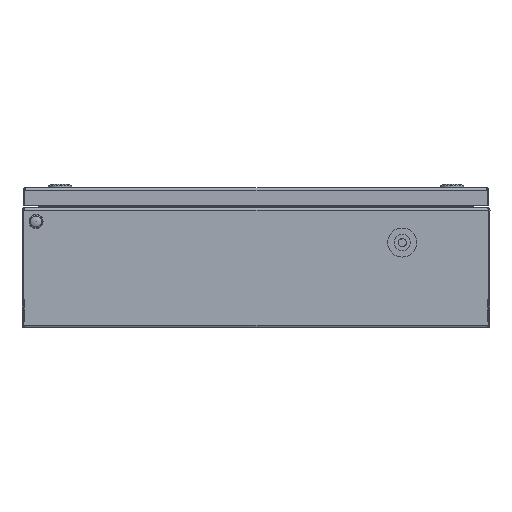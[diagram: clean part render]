
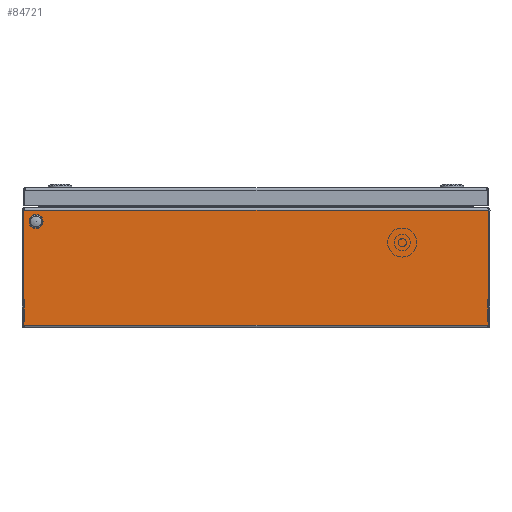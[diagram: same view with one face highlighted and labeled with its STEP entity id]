
A CAD part, front view. The second image highlights one B-rep face of the part: STEP entity #84721.
In plain terms, the highlighted planar face has unit normal (0, -1, 0).
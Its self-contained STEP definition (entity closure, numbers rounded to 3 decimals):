
#2065 = LINE ( 'NONE', #3140, #48731 ) ;
#2293 = PLANE ( 'NONE',  #45249 ) ;
#3140 = CARTESIAN_POINT ( 'NONE',  ( 198.623, -200., 100.6 ) ) ;
#4784 = EDGE_CURVE ( 'NONE', #17352, #34187, #63162, .T. ) ;
#5994 = CARTESIAN_POINT ( 'NONE',  ( -188., -200., 91. ) ) ;
#8314 = EDGE_CURVE ( 'NONE', #103350, #17352, #32807, .T. ) ;
#8383 = EDGE_LOOP ( 'NONE', ( #59059, #26809 ) ) ;
#11914 = VERTEX_POINT ( 'NONE', #97627 ) ;
#13679 = DIRECTION ( 'NONE',  ( 0., 0., -1. ) ) ;
#14251 = CARTESIAN_POINT ( 'NONE',  ( 2200., -200., 100.6 ) ) ;
#15823 = EDGE_CURVE ( 'NONE', #11914, #21300, #36227, .T. ) ;
#16900 = CARTESIAN_POINT ( 'NONE',  ( -198.623, -200., 2.4 ) ) ;
#17352 = VERTEX_POINT ( 'NONE', #16900 ) ;
#18829 = CARTESIAN_POINT ( 'NONE',  ( -188., -200., 95.65 ) ) ;
#21300 = VERTEX_POINT ( 'NONE', #18829 ) ;
#23004 = EDGE_CURVE ( 'NONE', #21300, #11914, #105032, .T. ) ;
#24311 = CARTESIAN_POINT ( 'NONE',  ( -198.623, -200., 100.6 ) ) ;
#24946 = AXIS2_PLACEMENT_3D ( 'NONE', #46973, #51556, #70907 ) ;
#26809 = ORIENTED_EDGE ( 'NONE', *, *, #23004, .F. ) ;
#32807 = LINE ( 'NONE', #39938, #42166 ) ;
#34187 = VERTEX_POINT ( 'NONE', #69242 ) ;
#34788 = EDGE_CURVE ( 'NONE', #85627, #34187, #73113, .T. ) ;
#36227 = CIRCLE ( 'NONE', #105888, 4.65 ) ;
#38220 = DIRECTION ( 'NONE',  ( -1., 0., 0. ) ) ;
#39938 = CARTESIAN_POINT ( 'NONE',  ( 2200., -200., 2.4 ) ) ;
#41636 = ORIENTED_EDGE ( 'NONE', *, *, #74362, .F. ) ;
#42166 = VECTOR ( 'NONE', #91700, 1000. ) ;
#42659 = FACE_BOUND ( 'NONE', #8383, .T. ) ;
#45249 = AXIS2_PLACEMENT_3D ( 'NONE', #94890, #96493, #62286 ) ;
#46973 = CARTESIAN_POINT ( 'NONE',  ( -188., -200., 91. ) ) ;
#48731 = VECTOR ( 'NONE', #77240, 1000. ) ;
#49742 = VECTOR ( 'NONE', #107716, 1000. ) ;
#51556 = DIRECTION ( 'NONE',  ( 0., -1., 0. ) ) ;
#55272 = ORIENTED_EDGE ( 'NONE', *, *, #8314, .F. ) ;
#56535 = VECTOR ( 'NONE', #38220, 1000. ) ;
#59059 = ORIENTED_EDGE ( 'NONE', *, *, #15823, .F. ) ;
#62286 = DIRECTION ( 'NONE',  ( 0., 0., -1. ) ) ;
#63162 = LINE ( 'NONE', #24311, #49742 ) ;
#67707 = FACE_OUTER_BOUND ( 'NONE', #107077, .T. ) ;
#69242 = CARTESIAN_POINT ( 'NONE',  ( -198.623, -200., 100.6 ) ) ;
#70907 = DIRECTION ( 'NONE',  ( 0., 0., -1. ) ) ;
#73052 = DIRECTION ( 'NONE',  ( 0., -1., 0. ) ) ;
#73113 = LINE ( 'NONE', #14251, #56535 ) ;
#74362 = EDGE_CURVE ( 'NONE', #85627, #103350, #2065, .T. ) ;
#77240 = DIRECTION ( 'NONE',  ( 0., 0., -1. ) ) ;
#84721 = ADVANCED_FACE ( 'NONE', ( #67707, #42659 ), #2293, .F. ) ;
#85627 = VERTEX_POINT ( 'NONE', #93078 ) ;
#91700 = DIRECTION ( 'NONE',  ( -1., 0., 0. ) ) ;
#93078 = CARTESIAN_POINT ( 'NONE',  ( 198.623, -200., 100.6 ) ) ;
#94629 = ORIENTED_EDGE ( 'NONE', *, *, #34788, .T. ) ;
#94890 = CARTESIAN_POINT ( 'NONE',  ( 2200., -200., 100.6 ) ) ;
#96493 = DIRECTION ( 'NONE',  ( 0., 1., 0. ) ) ;
#97590 = ORIENTED_EDGE ( 'NONE', *, *, #4784, .F. ) ;
#97627 = CARTESIAN_POINT ( 'NONE',  ( -188., -200., 86.35 ) ) ;
#102054 = CARTESIAN_POINT ( 'NONE',  ( 198.623, -200., 2.4 ) ) ;
#103350 = VERTEX_POINT ( 'NONE', #102054 ) ;
#105032 = CIRCLE ( 'NONE', #24946, 4.65 ) ;
#105888 = AXIS2_PLACEMENT_3D ( 'NONE', #5994, #73052, #13679 ) ;
#107077 = EDGE_LOOP ( 'NONE', ( #55272, #41636, #94629, #97590 ) ) ;
#107716 = DIRECTION ( 'NONE',  ( 0., 0., 1. ) ) ;
